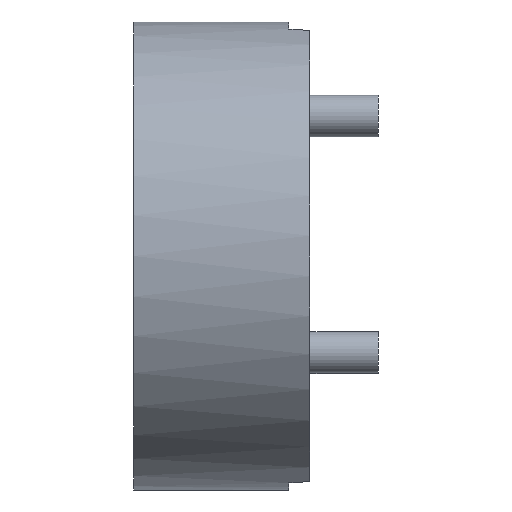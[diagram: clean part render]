
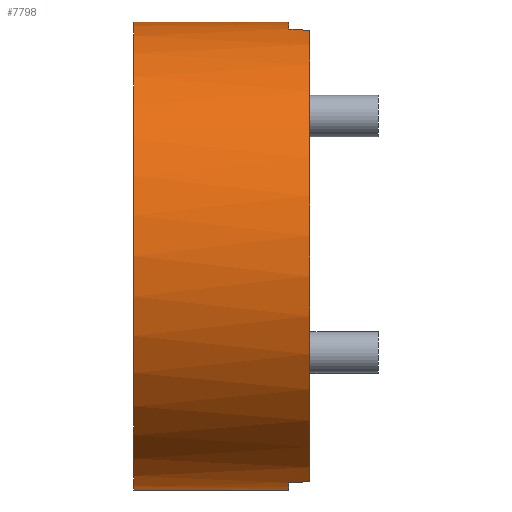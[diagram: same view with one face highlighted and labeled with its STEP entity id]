
A CAD part, left-side view. The second image highlights one B-rep face of the part: STEP entity #7798.
In plain terms, the highlighted cylindrical face has radius 14.287 mm (diameter 28.575 mm), a partial arc.
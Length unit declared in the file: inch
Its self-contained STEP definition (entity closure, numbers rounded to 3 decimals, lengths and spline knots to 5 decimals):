
#68 = FACE_OUTER_BOUND ( 'NONE', #4439, .T. ) ;
#90 = CIRCLE ( 'NONE', #5087, 0.5625 ) ;
#104 = CARTESIAN_POINT ( 'NONE',  ( 0., 0.2115, 0.5625 ) ) ;
#481 = ORIENTED_EDGE ( 'NONE', *, *, #2570, .T. ) ;
#573 = CARTESIAN_POINT ( 'NONE',  ( 0., 0.2115, 0. ) ) ;
#636 = VERTEX_POINT ( 'NONE', #6326 ) ;
#709 = EDGE_CURVE ( 'NONE', #636, #3603, #4499, .T. ) ;
#1101 = CARTESIAN_POINT ( 'NONE',  ( 0., 0.2115, -0.5625 ) ) ;
#1123 = ORIENTED_EDGE ( 'NONE', *, *, #2298, .T. ) ;
#1373 = DIRECTION ( 'NONE',  ( 0., -1., 0. ) ) ;
#1709 = CIRCLE ( 'NONE', #2270, 0.5625 ) ;
#1930 = AXIS2_PLACEMENT_3D ( 'NONE', #4361, #7084, #5833 ) ;
#2082 = AXIS2_PLACEMENT_3D ( 'NONE', #3800, #8660, #6523 ) ;
#2154 = EDGE_CURVE ( 'NONE', #6682, #636, #3233, .T. ) ;
#2270 = AXIS2_PLACEMENT_3D ( 'NONE', #7781, #7032, #7737 ) ;
#2298 = EDGE_CURVE ( 'NONE', #4913, #6689, #3812, .T. ) ;
#2433 = CARTESIAN_POINT ( 'NONE',  ( -0.15, -0.2115, -0.54213 ) ) ;
#2477 = AXIS2_PLACEMENT_3D ( 'NONE', #2934, #1373, #7669 ) ;
#2480 = CARTESIAN_POINT ( 'NONE',  ( 0., -0.1615, -0.5625 ) ) ;
#2512 = CIRCLE ( 'NONE', #2082, 0.5625 ) ;
#2558 = VERTEX_POINT ( 'NONE', #2480 ) ;
#2570 = EDGE_CURVE ( 'NONE', #8839, #2558, #6551, .T. ) ;
#2751 = EDGE_CURVE ( 'NONE', #8799, #3603, #4937, .T. ) ;
#2862 = CARTESIAN_POINT ( 'NONE',  ( -0.14108, -0.17822, -0.54454 ) ) ;
#2934 = CARTESIAN_POINT ( 'NONE',  ( 0., 0.2115, 0. ) ) ;
#2962 = DIRECTION ( 'NONE',  ( 0., 1., 0. ) ) ;
#3189 = EDGE_CURVE ( 'NONE', #6689, #6682, #2512, .T. ) ;
#3233 =( BOUNDED_CURVE ( )  B_SPLINE_CURVE ( 3, ( #5496, #4739, #6085, #8802 ),
 .UNSPECIFIED., .F., .F. ) 
 B_SPLINE_CURVE_WITH_KNOTS ( ( 4, 4 ),
 ( 1.30086, 1.32549 ),
 .UNSPECIFIED. ) 
 CURVE ( )  GEOMETRIC_REPRESENTATION_ITEM ( )  RATIONAL_B_SPLINE_CURVE ( ( 1., 1., 1., 1. ) ) 
 REPRESENTATION_ITEM ( '' )  );
#3367 = EDGE_CURVE ( 'NONE', #8839, #8799, #90, .T. ) ;
#3555 = ORIENTED_EDGE ( 'NONE', *, *, #2154, .T. ) ;
#3603 = VERTEX_POINT ( 'NONE', #4673 ) ;
#3637 = CARTESIAN_POINT ( 'NONE',  ( 0., 0.2115, 0.5625 ) ) ;
#3704 = ORIENTED_EDGE ( 'NONE', *, *, #709, .T. ) ;
#3800 = CARTESIAN_POINT ( 'NONE',  ( 0., -0.2115, 0. ) ) ;
#3812 =( BOUNDED_CURVE ( )  B_SPLINE_CURVE ( 3, ( #6261, #2862, #4255, #8307 ),
 .UNSPECIFIED., .F., .F. ) 
 B_SPLINE_CURVE_WITH_KNOTS ( ( 4, 4 ),
 ( 4.95769, 4.98232 ),
 .UNSPECIFIED. ) 
 CURVE ( )  GEOMETRIC_REPRESENTATION_ITEM ( )  RATIONAL_B_SPLINE_CURVE ( ( 1., 1., 1., 1. ) ) 
 REPRESENTATION_ITEM ( '' )  );
#4183 = CYLINDRICAL_SURFACE ( 'NONE', #2477, 0.5625 ) ;
#4255 = CARTESIAN_POINT ( 'NONE',  ( -0.14555, -0.19489, -0.54336 ) ) ;
#4361 = CARTESIAN_POINT ( 'NONE',  ( 0., -0.1615, 0. ) ) ;
#4439 = EDGE_LOOP ( 'NONE', ( #7338, #4721, #481, #6064, #1123, #4780, #3555, #3704 ) ) ;
#4452 = DIRECTION ( 'NONE',  ( 0., -1., 0. ) ) ;
#4499 = CIRCLE ( 'NONE', #1930, 0.5625 ) ;
#4673 = CARTESIAN_POINT ( 'NONE',  ( 0., -0.1615, 0.5625 ) ) ;
#4721 = ORIENTED_EDGE ( 'NONE', *, *, #3367, .F. ) ;
#4739 = CARTESIAN_POINT ( 'NONE',  ( -0.14555, -0.19489, 0.54336 ) ) ;
#4780 = ORIENTED_EDGE ( 'NONE', *, *, #3189, .T. ) ;
#4913 = VERTEX_POINT ( 'NONE', #5168 ) ;
#4937 = LINE ( 'NONE', #3637, #5506 ) ;
#5087 = AXIS2_PLACEMENT_3D ( 'NONE', #573, #2962, #5645 ) ;
#5102 = EDGE_CURVE ( 'NONE', #2558, #4913, #1709, .T. ) ;
#5168 = CARTESIAN_POINT ( 'NONE',  ( -0.1366, -0.1615, -0.54566 ) ) ;
#5496 = CARTESIAN_POINT ( 'NONE',  ( -0.15, -0.2115, 0.54213 ) ) ;
#5506 = VECTOR ( 'NONE', #6992, 39.37008 ) ;
#5645 = DIRECTION ( 'NONE',  ( 0., 0., 1. ) ) ;
#5833 = DIRECTION ( 'NONE',  ( 0., 0., 1. ) ) ;
#5834 = CARTESIAN_POINT ( 'NONE',  ( -0.15, -0.2115, 0.54213 ) ) ;
#6064 = ORIENTED_EDGE ( 'NONE', *, *, #5102, .T. ) ;
#6085 = CARTESIAN_POINT ( 'NONE',  ( -0.14108, -0.17822, 0.54454 ) ) ;
#6261 = CARTESIAN_POINT ( 'NONE',  ( -0.1366, -0.1615, -0.54566 ) ) ;
#6326 = CARTESIAN_POINT ( 'NONE',  ( -0.1366, -0.1615, 0.54566 ) ) ;
#6523 = DIRECTION ( 'NONE',  ( 0., 0., 1. ) ) ;
#6551 = LINE ( 'NONE', #1101, #7361 ) ;
#6682 = VERTEX_POINT ( 'NONE', #5834 ) ;
#6689 = VERTEX_POINT ( 'NONE', #2433 ) ;
#6992 = DIRECTION ( 'NONE',  ( 0., -1., 0. ) ) ;
#7032 = DIRECTION ( 'NONE',  ( 0., 1., 0. ) ) ;
#7084 = DIRECTION ( 'NONE',  ( 0., 1., 0. ) ) ;
#7338 = ORIENTED_EDGE ( 'NONE', *, *, #2751, .F. ) ;
#7361 = VECTOR ( 'NONE', #4452, 39.37008 ) ;
#7669 = DIRECTION ( 'NONE',  ( 0., 0., -1. ) ) ;
#7737 = DIRECTION ( 'NONE',  ( 0., 0., 1. ) ) ;
#7781 = CARTESIAN_POINT ( 'NONE',  ( 0., -0.1615, 0. ) ) ;
#7798 = ADVANCED_FACE ( 'NONE', ( #68 ), #4183, .T. ) ;
#8230 = CARTESIAN_POINT ( 'NONE',  ( 0., 0.2115, -0.5625 ) ) ;
#8307 = CARTESIAN_POINT ( 'NONE',  ( -0.15, -0.2115, -0.54213 ) ) ;
#8660 = DIRECTION ( 'NONE',  ( 0., 1., 0. ) ) ;
#8799 = VERTEX_POINT ( 'NONE', #104 ) ;
#8802 = CARTESIAN_POINT ( 'NONE',  ( -0.1366, -0.1615, 0.54566 ) ) ;
#8839 = VERTEX_POINT ( 'NONE', #8230 ) ;
